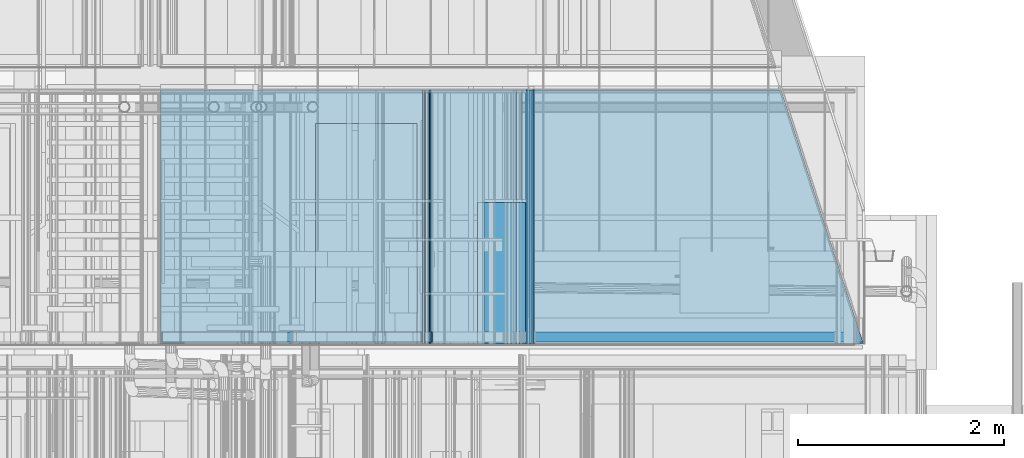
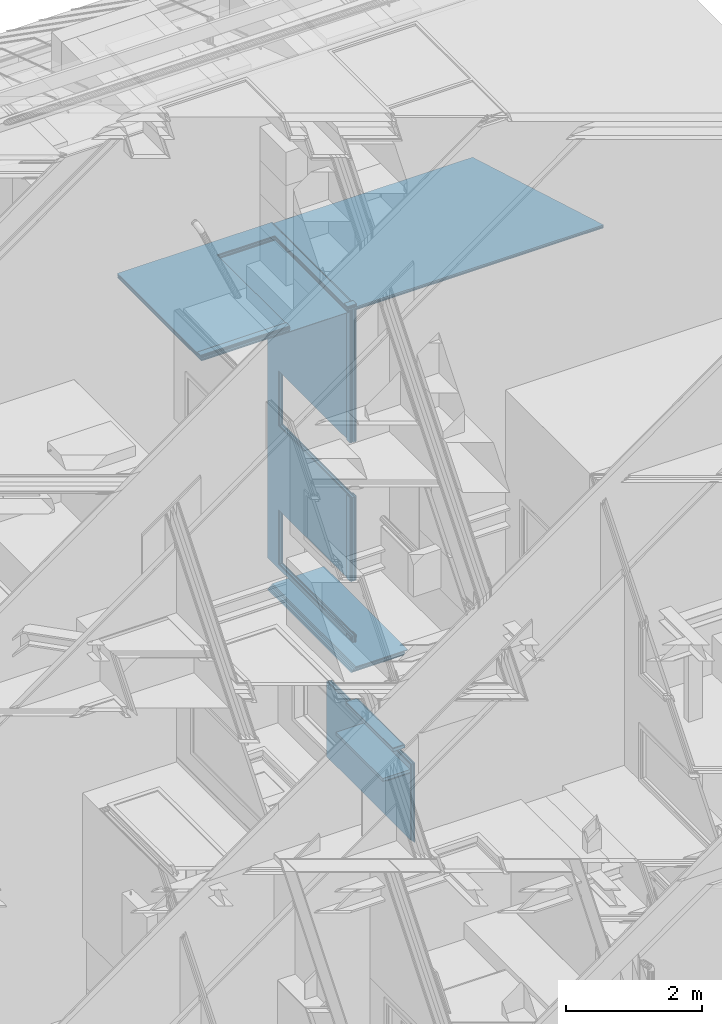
# One storey, part 161 of 583: 27 building element parts, 3 openings, 6 elements without a shape of their own.
"""IFC2X3 building model written with IfcOpenShell, lengths in metres."""

from ifc_helpers import new_model, entity, si_unit, converted_unit, derived_unit, money_unit, direction, frame, frame_2d, origin_with_axes, place, context, subcontext, project, spatial, polyline, rectangle, outline, extrude, clip, halfspace, material, type_object, element, aggregate, save


model = new_model("IFC2X3")

# Units and contexts
model_context = context("Model", 3, precision=1e-05, world=origin_with_axes(), true_north=direction((0.0, 1.0)))
body_context = subcontext(model_context, "Body", "Model", "MODEL_VIEW", scale=1.0)
ifc_project = project(units=[si_unit("LENGTHUNIT", "METRE"), si_unit("AREAUNIT", "SQUARE_METRE"), si_unit("VOLUMEUNIT", "CUBIC_METRE"), si_unit("ABSORBEDDOSEUNIT", "GRAY"), si_unit("AMOUNTOFSUBSTANCEUNIT", "MOLE"), si_unit("DOSEEQUIVALENTUNIT", "SIEVERT"), si_unit("ELECTRICCAPACITANCEUNIT", "FARAD"), si_unit("ELECTRICCHARGEUNIT", "COULOMB"), si_unit("ELECTRICCONDUCTANCEUNIT", "SIEMENS"), si_unit("ELECTRICCURRENTUNIT", "AMPERE"), si_unit("ELECTRICRESISTANCEUNIT", "OHM"), si_unit("ELECTRICVOLTAGEUNIT", "VOLT"), si_unit("ENERGYUNIT", "JOULE"), si_unit("FORCEUNIT", "NEWTON"), si_unit("FREQUENCYUNIT", "HERTZ"), si_unit("ILLUMINANCEUNIT", "LUX"), si_unit("INDUCTANCEUNIT", "HENRY"), si_unit("LUMINOUSFLUXUNIT", "LUMEN"), si_unit("LUMINOUSINTENSITYUNIT", "CANDELA"), si_unit("MAGNETICFLUXDENSITYUNIT", "TESLA"), si_unit("MAGNETICFLUXUNIT", "WEBER"), si_unit("MASSUNIT", "GRAM"), converted_unit("PLANEANGLEUNIT", "degree", entity("IfcReal", 0.0174532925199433), si_unit("PLANEANGLEUNIT", "RADIAN"), dimensions=[0, 0, 0, 0, 0, 0, 0]), si_unit("POWERUNIT", "WATT"), si_unit("PRESSUREUNIT", "PASCAL"), si_unit("RADIOACTIVITYUNIT", "BECQUEREL"), si_unit("SOLIDANGLEUNIT", "STERADIAN"), si_unit("THERMODYNAMICTEMPERATUREUNIT", "KELVIN"), si_unit("TIMEUNIT", "SECOND"), derived_unit("ACCELERATIONUNIT", [(si_unit("LENGTHUNIT", "METRE"), 1), (si_unit("TIMEUNIT", "SECOND"), -2)]), derived_unit("ANGULARVELOCITYUNIT", [(converted_unit("PLANEANGLEUNIT", "degree", entity("IfcReal", 0.0174532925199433), si_unit("PLANEANGLEUNIT", "RADIAN"), dimensions=[0, 0, 0, 0, 0, 0, 0]), 1), (si_unit("TIMEUNIT", "SECOND"), -1)]), derived_unit("CURVATUREUNIT", [(converted_unit("PLANEANGLEUNIT", "degree", entity("IfcReal", 0.0174532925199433), si_unit("PLANEANGLEUNIT", "RADIAN"), dimensions=[0, 0, 0, 0, 0, 0, 0]), 1), (si_unit("LENGTHUNIT", "METRE"), -1)]), derived_unit("DYNAMICVISCOSITYUNIT", [(si_unit("PRESSUREUNIT", "PASCAL"), 1), (si_unit("TIMEUNIT", "SECOND"), 1)]), derived_unit("HEATFLUXDENSITYUNIT", [(si_unit("POWERUNIT", "WATT"), 1), (si_unit("LENGTHUNIT", "METRE"), -2)]), derived_unit("HEATINGVALUEUNIT", [(si_unit("ENERGYUNIT", "JOULE"), 1), (si_unit("MASSUNIT", "GRAM"), -1)]), derived_unit("INTEGERCOUNTRATEUNIT", [(si_unit("TIMEUNIT", "SECOND"), -1)]), derived_unit("IONCONCENTRATIONUNIT", [(si_unit("MASSUNIT", "GRAM"), 1), (si_unit("VOLUMEUNIT", "CUBIC_METRE"), -1)]), derived_unit("ISOTHERMALMOISTURECAPACITYUNIT", [(si_unit("VOLUMEUNIT", "CUBIC_METRE"), 1), (si_unit("MASSUNIT", "GRAM"), -1)]), derived_unit("KINEMATICVISCOSITYUNIT", [(si_unit("AREAUNIT", "SQUARE_METRE"), 1), (si_unit("TIMEUNIT", "SECOND"), -1)]), derived_unit("LINEARFORCEUNIT", [(si_unit("FORCEUNIT", "NEWTON"), 1), (si_unit("LENGTHUNIT", "METRE"), -1)]), derived_unit("LINEARMOMENTUNIT", [(si_unit("FORCEUNIT", "NEWTON"), 1), (si_unit("LENGTHUNIT", "METRE"), -1)]), derived_unit("LINEARSTIFFNESSUNIT", [(si_unit("FORCEUNIT", "NEWTON"), 1), (si_unit("LENGTHUNIT", "METRE"), -1)]), derived_unit("LINEARVELOCITYUNIT", [(si_unit("LENGTHUNIT", "METRE"), 1), (si_unit("TIMEUNIT", "SECOND"), -1)]), derived_unit("LUMINOUSINTENSITYDISTRIBUTIONUNIT", [(si_unit("LUMINOUSINTENSITYUNIT", "CANDELA"), 1), (si_unit("LUMINOUSFLUXUNIT", "LUMEN"), -1)]), derived_unit("MASSDENSITYUNIT", [(si_unit("MASSUNIT", "GRAM"), 1), (si_unit("VOLUMEUNIT", "CUBIC_METRE"), -1)]), derived_unit("MASSFLOWRATEUNIT", [(si_unit("MASSUNIT", "GRAM"), 1), (si_unit("TIMEUNIT", "SECOND"), -1)]), derived_unit("MASSPERLENGTHUNIT", [(si_unit("MASSUNIT", "GRAM"), 1), (si_unit("LENGTHUNIT", "METRE"), -1)]), derived_unit("MODULUSOFELASTICITYUNIT", [(si_unit("FORCEUNIT", "NEWTON"), 1), (si_unit("AREAUNIT", "SQUARE_METRE"), -1)]), derived_unit("MODULUSOFLINEARSUBGRADEREACTIONUNIT", [(si_unit("FORCEUNIT", "NEWTON"), 1), (si_unit("LENGTHUNIT", "METRE"), -2)]), derived_unit("MODULUSOFROTATIONALSUBGRADEREACTIONUNIT", [(si_unit("FORCEUNIT", "NEWTON"), 1), (si_unit("LENGTHUNIT", "METRE"), 1)]), derived_unit("MODULUSOFSUBGRADEREACTIONUNIT", [(si_unit("FORCEUNIT", "NEWTON"), 1), (si_unit("VOLUMEUNIT", "CUBIC_METRE"), -1)]), derived_unit("MOISTUREDIFFUSIVITYUNIT", [(si_unit("VOLUMEUNIT", "CUBIC_METRE"), 1), (si_unit("TIMEUNIT", "SECOND"), -1)]), derived_unit("MOLECULARWEIGHTUNIT", [(si_unit("MASSUNIT", "GRAM"), 1), (si_unit("AMOUNTOFSUBSTANCEUNIT", "MOLE"), -1)]), derived_unit("PLANARFORCEUNIT", [(si_unit("FORCEUNIT", "NEWTON"), 1), (si_unit("LENGTHUNIT", "METRE"), -2)]), derived_unit("ROTATIONALFREQUENCYUNIT", [(si_unit("TIMEUNIT", "SECOND"), -1)]), derived_unit("ROTATIONALMASSUNIT", [(si_unit("MASSUNIT", "GRAM"), 1), (si_unit("LENGTHUNIT", "METRE"), 2)]), derived_unit("ROTATIONALSTIFFNESSUNIT", [(si_unit("FORCEUNIT", "NEWTON"), 1), (si_unit("LENGTHUNIT", "METRE"), 1), (converted_unit("PLANEANGLEUNIT", "degree", entity("IfcReal", 0.0174532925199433), si_unit("PLANEANGLEUNIT", "RADIAN"), dimensions=[0, 0, 0, 0, 0, 0, 0]), -1)]), derived_unit("SECTIONAREAINTEGRALUNIT", [(si_unit("LENGTHUNIT", "METRE"), 5)]), derived_unit("SECTIONMODULUSUNIT", [(si_unit("LENGTHUNIT", "METRE"), 3)]), derived_unit("SHEARMODULUSUNIT", [(si_unit("FORCEUNIT", "NEWTON"), 1), (si_unit("AREAUNIT", "SQUARE_METRE"), -1)]), derived_unit("SOUNDPOWERUNIT", [(si_unit("ENERGYUNIT", "JOULE"), 1), (si_unit("TIMEUNIT", "SECOND"), -1)]), derived_unit("SPECIFICHEATCAPACITYUNIT", [(si_unit("FORCEUNIT", "NEWTON"), 1), (si_unit("MASSUNIT", "GRAM"), -1), (si_unit("THERMODYNAMICTEMPERATUREUNIT", "KELVIN"), -1)]), derived_unit("TEMPERATUREGRADIENTUNIT", [(si_unit("THERMODYNAMICTEMPERATUREUNIT", "KELVIN"), 1), (si_unit("LENGTHUNIT", "METRE"), -1)]), derived_unit("THERMALADMITTANCEUNIT", [(si_unit("POWERUNIT", "WATT"), 1), (si_unit("AREAUNIT", "SQUARE_METRE"), -1), (si_unit("THERMODYNAMICTEMPERATUREUNIT", "KELVIN"), -1)]), derived_unit("THERMALCONDUCTANCEUNIT", [(si_unit("POWERUNIT", "WATT"), 1), (si_unit("LENGTHUNIT", "METRE"), -1), (si_unit("THERMODYNAMICTEMPERATUREUNIT", "KELVIN"), -1)]), derived_unit("THERMALEXPANSIONCOEFFICIENTUNIT", [(si_unit("THERMODYNAMICTEMPERATUREUNIT", "KELVIN"), -1)]), derived_unit("THERMALRESISTANCEUNIT", [(si_unit("AREAUNIT", "SQUARE_METRE"), 1), (si_unit("POWERUNIT", "WATT"), -1)]), derived_unit("THERMALTRANSMITTANCEUNIT", [(si_unit("POWERUNIT", "WATT"), 1), (si_unit("AREAUNIT", "SQUARE_METRE"), -1), (si_unit("THERMODYNAMICTEMPERATUREUNIT", "KELVIN"), -1)]), derived_unit("TORQUEUNIT", [(si_unit("FORCEUNIT", "NEWTON"), 1), (si_unit("LENGTHUNIT", "METRE"), 1)]), derived_unit("VAPORPERMEABILITYUNIT", [(si_unit("MASSUNIT", "GRAM"), 1), (si_unit("TIMEUNIT", "SECOND"), -1)]), derived_unit("VOLUMETRICFLOWRATEUNIT", [(si_unit("VOLUMEUNIT", "CUBIC_METRE"), 1), (si_unit("TIMEUNIT", "SECOND"), -1)]), derived_unit("WARPINGCONSTANTUNIT", [(si_unit("LENGTHUNIT", "METRE"), 6)]), derived_unit("WARPINGMOMENTUNIT", [(si_unit("FORCEUNIT", "NEWTON"), 1), (si_unit("LENGTHUNIT", "METRE"), 2)]), money_unit("GBP")], contexts=[model_context])

# Site, building, storey
site_placement = place(None, origin_with_axes())
site = spatial("IfcSite", under=ifc_project, at=site_placement, Name="Site", CompositionType="ELEMENT")
building_placement = place(site_placement, origin_with_axes())
building = spatial("IfcBuilding", under=site, at=building_placement, Name="Building01", CompositionType="ELEMENT")
storey_placement = place(building_placement, frame((0.0, 0.0, 20.78), z_axis=(0.0, 0.0, 1.0), x_axis=(1.0, 0.0, 0.0)))
storey = spatial("IfcBuildingStorey", under=building, at=storey_placement, Name="RL", CompositionType="ELEMENT", Elevation=20.78)

# Wall, building element parts
wall_type_1 = type_object("IfcWallType", Name="SHE_A-Walls_Type05b_Partition_80mm", PredefinedType="NOTDEFINED")
wall_1_placement = place(storey_placement, frame((11.156849, 14.98, -7.33), z_axis=(0.0, 1.0, 0.0), x_axis=(0.0, 0.0, -1.0)))
wall_1 = element("IfcWall", 1, at=wall_1_placement, inside=storey, type_object=wall_type_1, Name="5B", ObjectType="SHE_A-Walls_Type05b_Partition_80mm")
ifc_material_1 = material(Name="A_BSUK_Insulation")
placement_1 = place(wall_1_placement, origin_with_axes())
building_element_part_1 = element("IfcBuildingElementPart", 2, at=placement_1, material=ifc_material_1, Name="1", context=body_context, shape_type="SweptSolid", body=[
    extrude(outline(polyline([(1.380619, 0.025), (0.0, 0.025), (0.0, 0.0), (1.405619, 0.0), (1.380619, 0.025)])), origin_with_axes(), (0.0, 0.0, 1.0), 2.468),
])
ifc_material_2 = material(Name="A_BSUK_WallInternal_Finishes_Plasterboard")
building_element_part_2 = element("IfcBuildingElementPart", 3, at=placement_1, material=ifc_material_2, Name="3", context=body_context, shape_type="SweptSolid", body=[
    extrude(outline(polyline([(1.352619, 0.053), (0.0, 0.053), (0.0, 0.038), (1.367619, 0.038), (1.352619, 0.053)])), origin_with_axes(), (0.0, 0.0, 1.0), 2.468),
])
building_element_part_3 = element("IfcBuildingElementPart", 4, at=placement_1, material=ifc_material_2, Name="4", context=body_context, shape_type="SweptSolid", body=[
    extrude(outline(polyline([(1.417619, -0.012), (0.0, -0.012), (0.0, -0.027), (1.432619, -0.027), (1.417619, -0.012)])), origin_with_axes(), (0.0, 0.0, 1.0), 2.468),
])
aggregate(wall_1, [building_element_part_1, building_element_part_2, building_element_part_3])

# Wall, opening, building element parts
wall_2_placement = place(storey_placement, frame((7.549915, 14.98, 1.212976), z_axis=(0.0, 1.0, 0.0), x_axis=(1.0, 0.0, 0.0)))
wall_2 = element("IfcWall", 5, at=wall_2_placement, inside=storey, type_object=wall_type_1, Name="5B", ObjectType="SHE_A-Walls_Type05b_Partition_80mm")
opening_1_placement = place(wall_2_placement, frame((1.508024, -0.027, 0.0), z_axis=(0.0, 0.0, 1.0), x_axis=(1.0, 0.0, 0.0)))
element("IfcOpeningElement", 6, at=opening_1_placement, cuts=wall_2, Name="Opening", ObjectType="Opening", context=body_context, shape_type="SweptSolid", body=[
    extrude(rectangle(XDim=0.984, YDim=2.142, at=frame_2d((0.492, 1.071), x_axis=(1.0, 0.0))), frame((0.0, 0.078, 0.0), z_axis=(0.0, -1.0, 0.0), x_axis=(1.0, 0.0, 0.0)), (0.0, 0.0, 1.0), 0.156),
])
placement_2 = place(wall_2_placement, origin_with_axes())
building_element_part_4 = element("IfcBuildingElementPart", 7, at=placement_2, material=ifc_material_1, Name="1", context=body_context, shape_type="Clipping", body=[
    clip(extrude(rectangle(XDim=6.836743, YDim=0.025, at=frame_2d((3.418371, 0.0125), x_axis=(-1.0, 0.0))), origin_with_axes(), (0.0, 0.0, 1.0), 2.468), halfspace(frame((6.183892, 0.0, 2.009268), z_axis=(-0.95105652, 0.0, -0.30901699), x_axis=(0.0, -1.0, 0.0)), True)),
])
ifc_material_3 = material(Name="A_BSUK_Walls_Timber")
building_element_part_5 = element("IfcBuildingElementPart", 8, at=placement_2, material=ifc_material_3, Name="2", context=body_context, shape_type="SweptSolid", body=[
    extrude(outline(polyline([(2.535024, 0.068), (0.015, 0.068), (0.015, 0.053), (2.550024, 0.053), (2.535024, 0.068)])), frame((0.0, 0.0, 0.015), z_axis=(0.0, 0.0, 1.0), x_axis=(1.0, 0.0, 0.0)), (0.0, 0.0, 1.0), 0.1),
])
building_element_part_6 = element("IfcBuildingElementPart", 9, at=placement_2, material=ifc_material_2, Name="3", context=body_context, shape_type="SweptSolid", body=[
    extrude(rectangle(XDim=2.565024, YDim=0.015, at=frame_2d((1.282512, 0.0455), x_axis=(-1.0, 0.0))), origin_with_axes(), (0.0, 0.0, 1.0), 2.468),
])
building_element_part_7 = element("IfcBuildingElementPart", 10, at=placement_2, material=ifc_material_2, Name="4", context=body_context, shape_type="SweptSolid", body=[
    extrude(outline(polyline([(2.615024, -0.012), (0.0, -0.012), (0.0, -0.027), (2.630024, -0.027), (2.615024, -0.012)])), origin_with_axes(), (0.0, 0.0, 1.0), 2.468),
])
building_element_part_8 = element("IfcBuildingElementPart", 11, at=placement_2, material=ifc_material_3, Name="5", context=body_context, shape_type="SweptSolid", body=[
    extrude(outline(polyline([(2.630024, -0.027), (0.0, -0.027), (0.0, -0.042), (2.645024, -0.042), (2.630024, -0.027)])), frame((0.0, 0.0, 0.015), z_axis=(0.0, 0.0, 1.0), x_axis=(1.0, 0.0, 0.0)), (0.0, 0.0, 1.0), 0.1),
])
building_element_part_9 = element("IfcBuildingElementPart", 12, at=placement_2, material=ifc_material_3, Name="6", context=body_context, shape_type="Clipping", body=[
    clip(extrude(outline(polyline([(6.831869, 0.068), (2.535024, 0.068), (2.550024, 0.053), (6.831869, 0.053), (6.831869, 0.068)])), frame((0.0, 0.0, 0.015), z_axis=(0.0, 0.0, 1.0), x_axis=(1.0, 0.0, 0.0)), (0.0, 0.0, 1.0), 0.1), halfspace(frame((6.183892, 0.0, 2.009268), z_axis=(-0.95105652, 0.0, -0.30901699), x_axis=(0.0, -1.0, 0.0)), True)),
])
building_element_part_10 = element("IfcBuildingElementPart", 13, at=placement_2, material=ifc_material_2, Name="7", context=body_context, shape_type="Clipping", body=[
    clip(extrude(rectangle(XDim=4.206719, YDim=0.015, at=frame_2d((4.733384, 0.0455), x_axis=(-1.0, 0.0))), origin_with_axes(), (0.0, 0.0, 1.0), 2.468), halfspace(frame((6.183892, 0.0, 2.009268), z_axis=(-0.95105652, 0.0, -0.30901699), x_axis=(0.0, -1.0, 0.0)), True)),
])
aggregate(wall_2, [building_element_part_4, building_element_part_5, building_element_part_6, building_element_part_7, building_element_part_8, building_element_part_9, building_element_part_10])

# Wall, building element parts
wall_type_2 = type_object("IfcWallType", Name="SHE_A-Walls_Type05c_PreWallShell_65mm", PredefinedType="NOTDEFINED")
wall_3_placement = place(storey_placement, frame((10.633806, 14.98, -7.41763), z_axis=(0.0, 1.0, 0.0), x_axis=(1.0, 0.0, 0.0)))
wall_3 = element("IfcWall", 14, at=wall_3_placement, inside=storey, type_object=wall_type_2, Name="5C", ObjectType="SHE_A-Walls_Type05c_PreWallShell_65mm")
ifc_material_4 = material(Name="A_BSUK_OpeningsClearance")
placement_3 = place(wall_3_placement, origin_with_axes())
building_element_part_11 = element("IfcBuildingElementPart", 15, at=placement_3, material=ifc_material_4, Name="1", context=body_context, shape_type="SweptSolid", body=[
    extrude(rectangle(XDim=0.470043, YDim=0.05, at=frame_2d((0.235022, 0.025), x_axis=(-1.0, 0.0))), origin_with_axes(), (0.0, 0.0, 1.0), 1.375),
])
building_element_part_12 = element("IfcBuildingElementPart", 16, at=placement_3, material=ifc_material_3, Name="2", context=body_context, shape_type="SweptSolid", body=[
    extrude(rectangle(XDim=0.405043, YDim=0.015, at=frame_2d((0.267522, 0.0575), x_axis=(-1.0, 0.0))), origin_with_axes(), (0.0, 0.0, 1.0), 1.375),
])
aggregate(wall_3, [building_element_part_11, building_element_part_12])

wall_4_placement = place(storey_placement, frame((10.803883, 14.98, -6.995002), z_axis=(0.0, 1.0, 0.0), x_axis=(1.0, 0.0, 0.0)))
wall_4 = element("IfcWall", 17, at=wall_4_placement, inside=storey, type_object=wall_type_2, Name="5C", ObjectType="SHE_A-Walls_Type05c_PreWallShell_65mm")
placement_4 = place(wall_4_placement, origin_with_axes())
building_element_part_13 = element("IfcBuildingElementPart", 18, at=placement_4, material=ifc_material_4, Name="1", context=body_context, shape_type="SweptSolid", body=[
    extrude(rectangle(XDim=0.207906, YDim=0.05, at=frame_2d((0.103953, -0.025), x_axis=(-1.0, 0.0))), origin_with_axes(), (0.0, 0.0, 1.0), 1.375),
])
building_element_part_14 = element("IfcBuildingElementPart", 19, at=placement_4, material=ifc_material_3, Name="2", context=body_context, shape_type="SweptSolid", body=[
    extrude(rectangle(XDim=0.179906, YDim=0.015, at=frame_2d((0.089953, -0.0575), x_axis=(-1.0, 0.0))), origin_with_axes(), (0.0, 0.0, 1.0), 1.375),
])
aggregate(wall_4, [building_element_part_13, building_element_part_14])

# Wall, openings, building element parts
wall_5_placement = place(storey_placement, frame((10.126939, 14.98, -4.79356), z_axis=(0.0, 1.0, 0.0), x_axis=(0.0, 0.0, 1.0)))
wall_5 = element("IfcWall", 20, at=wall_5_placement, inside=storey, type_object=wall_type_1, Name="5B", ObjectType="SHE_A-Walls_Type05b_Partition_80mm")
opening_2_placement = place(wall_5_placement, frame((2.601536, 0.093, 0.0), z_axis=(0.0, 0.0, 1.0), x_axis=(1.0, 0.0, 0.0)))
element("IfcOpeningElement", 21, at=opening_2_placement, cuts=wall_5, Name="Opening", ObjectType="Opening", context=body_context, shape_type="SweptSolid", body=[
    extrude(rectangle(XDim=0.984, YDim=2.142, at=frame_2d((-0.492, 1.071), x_axis=(1.0, 0.0))), frame((0.0, -6.996664, 0.0), z_axis=(0.0, 1.0, 0.0), x_axis=(-1.0, 0.0, 0.0)), (0.0, 0.0, 1.0), 13.993328),
])
opening_3_placement = place(wall_5_placement, frame((0.11, 0.093, 0.0), z_axis=(0.0, 0.0, 1.0), x_axis=(1.0, 0.0, 0.0)))
element("IfcOpeningElement", 22, at=opening_3_placement, cuts=wall_5, Name="Opening", ObjectType="Opening", context=body_context, shape_type="SweptSolid", body=[
    extrude(rectangle(XDim=0.984, YDim=2.142, at=frame_2d((-0.492, 1.071), x_axis=(-1.0, 0.0))), frame((0.0, -6.996664, 0.0), z_axis=(0.0, 1.0, 0.0), x_axis=(-1.0, 0.0, 0.0)), (0.0, 0.0, 1.0), 13.993328),
])
placement_5 = place(wall_5_placement, origin_with_axes())
building_element_part_15 = element("IfcBuildingElementPart", 23, at=placement_5, material=ifc_material_1, Name="1", context=body_context, shape_type="SweptSolid", body=[
    extrude(rectangle(XDim=5.981536, YDim=0.025, at=frame_2d((2.990768, 0.0125), x_axis=(-1.0, 0.0))), origin_with_axes(), (0.0, 0.0, 1.0), 2.468),
])
building_element_part_16 = element("IfcBuildingElementPart", 24, at=placement_5, material=ifc_material_3, Name="2", context=body_context, shape_type="SweptSolid", body=[
    extrude(outline(polyline([(6.048536, 0.068), (0.052, 0.068), (0.052, 0.053), (6.033536, 0.053), (6.048536, 0.068)])), frame((0.0, 0.0, 0.015), z_axis=(0.0, 0.0, 1.0), x_axis=(1.0, 0.0, 0.0)), (0.0, 0.0, 1.0), 0.1),
])
building_element_part_17 = element("IfcBuildingElementPart", 25, at=placement_5, material=ifc_material_2, Name="3", context=body_context, shape_type="SweptSolid", body=[
    extrude(rectangle(XDim=1.386536, YDim=0.015, at=frame_2d((0.680268, 0.0455), x_axis=(-1.0, 0.0))), origin_with_axes(), (0.0, 0.0, 1.0), 2.468),
])
building_element_part_18 = element("IfcBuildingElementPart", 26, at=placement_5, material=ifc_material_2, Name="4", context=body_context, shape_type="SweptSolid", body=[
    extrude(rectangle(XDim=5.916536, YDim=0.015, at=frame_2d((2.995268, -0.0195), x_axis=(-1.0, 0.0))), origin_with_axes(), (0.0, 0.0, 1.0), 2.468),
])
building_element_part_19 = element("IfcBuildingElementPart", 27, at=placement_5, material=ifc_material_3, Name="5", context=body_context, shape_type="SweptSolid", body=[
    extrude(outline(polyline([(5.953536, -0.027), (0.052, -0.027), (0.052, -0.042), (5.938536, -0.042), (5.953536, -0.027)])), frame((0.0, 0.0, 0.015), z_axis=(0.0, 0.0, 1.0), x_axis=(1.0, 0.0, 0.0)), (0.0, 0.0, 1.0), 0.1),
])
building_element_part_20 = element("IfcBuildingElementPart", 28, at=placement_5, material=ifc_material_3, Name="6", context=body_context, shape_type="SweptSolid", body=[
    extrude(outline(polyline([(6.048536, 0.068), (1.453536, 0.068), (1.453536, 0.053), (6.033536, 0.053), (6.048536, 0.068)])), frame((0.0, 0.0, 0.015), z_axis=(0.0, 0.0, 1.0), x_axis=(1.0, 0.0, 0.0)), (0.0, 0.0, 1.0), 0.1),
])
building_element_part_21 = element("IfcBuildingElementPart", 29, at=placement_5, material=ifc_material_2, Name="7", context=body_context, shape_type="SweptSolid", body=[
    extrude(rectangle(XDim=0.015, YDim=4.53, at=frame_2d((3.703536, 0.0455), x_axis=(0.0, -1.0))), origin_with_axes(), (0.0, 0.0, 1.0), 2.468),
])
building_element_part_22 = element("IfcBuildingElementPart", 30, at=placement_5, material=ifc_material_3, Name="8", context=body_context, shape_type="SweptSolid", body=[
    extrude(outline(polyline([(6.048536, 0.068), (3.743536, 0.068), (3.743536, 0.053), (6.033536, 0.053), (6.048536, 0.068)])), frame((0.0, 0.0, 0.015), z_axis=(0.0, 0.0, 1.0), x_axis=(1.0, 0.0, 0.0)), (0.0, 0.0, 1.0), 0.1),
])
building_element_part_23 = element("IfcBuildingElementPart", 31, at=placement_5, material=ifc_material_2, Name="9", context=body_context, shape_type="SweptSolid", body=[
    extrude(rectangle(XDim=2.24, YDim=0.015, at=frame_2d((4.848536, 0.0455), x_axis=(-1.0, 0.0))), origin_with_axes(), (0.0, 0.0, 1.0), 2.468),
])
building_element_part_24 = element("IfcBuildingElementPart", 32, at=placement_5, material=ifc_material_2, Name="10", context=body_context, shape_type="SweptSolid", body=[
    extrude(rectangle(XDim=0.01533, YDim=0.015, at=frame_2d((6.025871, 0.0455), x_axis=(-1.0, 0.0))), origin_with_axes(), (0.0, 0.0, 1.0), 2.468),
])
aggregate(wall_5, [building_element_part_15, building_element_part_16, building_element_part_17, building_element_part_18, building_element_part_19, building_element_part_20, building_element_part_21, building_element_part_22, building_element_part_23, building_element_part_24])

# Wall, building element parts
wall_6_placement = place(storey_placement, frame((11.011789, 14.98, -5.303002), z_axis=(0.0, 1.0, 0.0), x_axis=(-1.0, 0.0, 0.0)))
wall_6 = element("IfcWall", 33, at=wall_6_placement, inside=storey, type_object=wall_type_1, Name="5B", ObjectType="SHE_A-Walls_Type05b_Partition_80mm")
placement_6 = place(wall_6_placement, origin_with_axes())
building_element_part_25 = element("IfcBuildingElementPart", 34, at=placement_6, material=ifc_material_1, Name="1", context=body_context, shape_type="SweptSolid", body=[
    extrude(outline(polyline([(0.859849, 0.025), (0.0, 0.025), (0.0, 0.0), (0.884849, 0.0), (0.859849, 0.025)])), origin_with_axes(), (0.0, 0.0, 1.0), 2.468),
])
building_element_part_26 = element("IfcBuildingElementPart", 35, at=placement_6, material=ifc_material_2, Name="3", context=body_context, shape_type="SweptSolid", body=[
    extrude(outline(polyline([(0.831849, 0.053), (-0.052, 0.053), (-0.037, 0.038), (0.846849, 0.038), (0.831849, 0.053)])), origin_with_axes(), (0.0, 0.0, 1.0), 2.468),
])
building_element_part_27 = element("IfcBuildingElementPart", 36, at=placement_6, material=ifc_material_2, Name="4", context=body_context, shape_type="SweptSolid", body=[
    extrude(outline(polyline([(0.896849, -0.012), (0.013, -0.012), (0.028, -0.027), (0.911849, -0.027), (0.896849, -0.012)])), origin_with_axes(), (0.0, 0.0, 1.0), 2.468),
])
aggregate(wall_6, [building_element_part_25, building_element_part_26, building_element_part_27])

save(model, "model.ifc")
